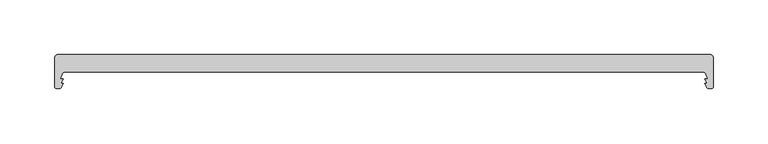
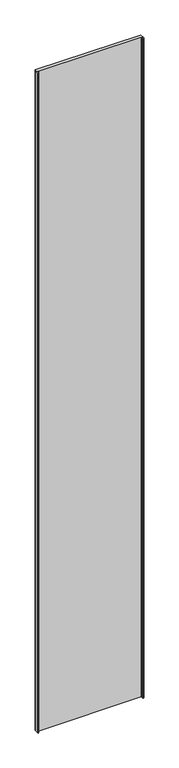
"""IFC4 building model written with IfcOpenShell, lengths in millimetres: plate geometry, Walls_Curtain-Walls_Danpal_VRS-System : Walls_Curtain-Walls_Danpal_VRS-System."""

from ifc_helpers import new_model, si_unit, point, frame_2d, origin, origin_with_axes, place, context, project, spatial, polyline, circle_curve, trimmed, segment, composite_curve, outline, extrude, source, transform, mapped, element, save


def plate_2a2454c8(model_context):
    return source(origin(), model_context, "Body", "SweptSolid", [
        extrude(outline(composite_curve([segment(trimmed(circle_curve(frame_2d((296.8491187, -2.6508813)), 2.6508813), [point((296.8491187, 0.0))], [point((299.5, -2.6508813))], False, "CARTESIAN"), True, "CONTINUOUS"), segment(polyline([(299.5, -2.6508813), (299.5, -29.6745594)]), True, "CONTINUOUS"), segment(trimmed(circle_curve(frame_2d((298.1745594, -29.6745594)), 1.3254406), [point((299.5, -29.6745594))], [point((298.1745594, -31.0))], False, "CARTESIAN"), True, "CONTINUOUS"), segment(polyline([(298.1745594, -31.0), (295.1998904, -31.0)]), True, "CONTINUOUS"), segment(trimmed(circle_curve(frame_2d((295.1998904, -29.5)), 1.5), [point((295.1998904, -31.0))], [point((293.8615937, -30.1774675))], False, "CARTESIAN"), True, "CONTINUOUS"), segment(polyline([(293.8615937, -30.1774675), (292.0, -26.5), (294.1714966, -26.5), (292.0, -22.2103379), (294.4106029, -22.2103379), (292.6451446, -17.3207839)]), True, "CONTINUOUS"), segment(trimmed(circle_curve(frame_2d((290.7640105, -18.0)), 2.0), [point((292.6451446, -17.3207839))], [point((290.7640105, -16.0))], True, "CARTESIAN"), True, "CONTINUOUS"), segment(polyline([(290.7640105, -16.0), (-291.7640105, -16.0)]), True, "CONTINUOUS"), segment(trimmed(circle_curve(frame_2d((-291.7640105, -18.0)), 2.0), [point((-291.7640105, -16.0))], [point((-293.6451446, -17.3207839))], True, "CARTESIAN"), True, "CONTINUOUS"), segment(polyline([(-293.6451446, -17.3207839), (-295.4106029, -22.2103379), (-293.0, -22.2103379), (-295.1714966, -26.5), (-293.0, -26.5), (-294.8615937, -30.1774675)]), True, "CONTINUOUS"), segment(trimmed(circle_curve(frame_2d((-296.1998904, -29.5)), 1.5), [point((-294.8615937, -30.1774675))], [point((-296.1998904, -31.0))], False, "CARTESIAN"), True, "CONTINUOUS"), segment(polyline([(-296.1998904, -31.0), (-299.1745594, -31.0)]), True, "CONTINUOUS"), segment(trimmed(circle_curve(frame_2d((-299.1745594, -29.6745594)), 1.3254406), [point((-299.1745594, -31.0))], [point((-300.5, -29.6745594))], False, "CARTESIAN"), True, "CONTINUOUS"), segment(polyline([(-300.5, -29.6745594), (-300.5, -2.6508813)]), True, "CONTINUOUS"), segment(trimmed(circle_curve(frame_2d((-297.8491187, -2.6508813)), 2.6508813), [point((-300.5, -2.6508813))], [point((-297.8491187, 0.0))], False, "CARTESIAN"), True, "CONTINUOUS"), segment(polyline([(-297.8491187, 0.0), (296.8491187, 0.0)]), True, "CONTINUOUS")], self_intersect=False)), origin_with_axes(), (0.0, 0.0, 1.0), 3938.1633646),
    ])


if __name__ == "__main__":
    model = new_model("IFC4")
    model_context = context("Model", 3, world=origin())
    ifc_project = project(units=[si_unit("LENGTHUNIT", "METRE", prefix="MILLI")], contexts=[model_context])
    site = spatial("IfcSite", under=ifc_project)
    building = spatial("IfcBuilding", under=site)
    placement = place(None, origin())
    plate_shape = plate_2a2454c8(model_context)
    element("IfcPlate", 1, ObjectType="Walls_Curtain-Walls_Danpal_VRS-System : Walls_Curtain-Walls_Danpal_VRS-System", at=placement, inside=building, context=model_context, shape_type="MappedRepresentation", body=[
        mapped(plate_shape, transform((0.0, 0.0, 0.0), x_axis=(1.0, 0.0, 0.0), y_axis=(0.0, 1.0, 0.0), z_axis=(0.0, 0.0, 1.0))),
    ])
    save(model, "model.ifc")
